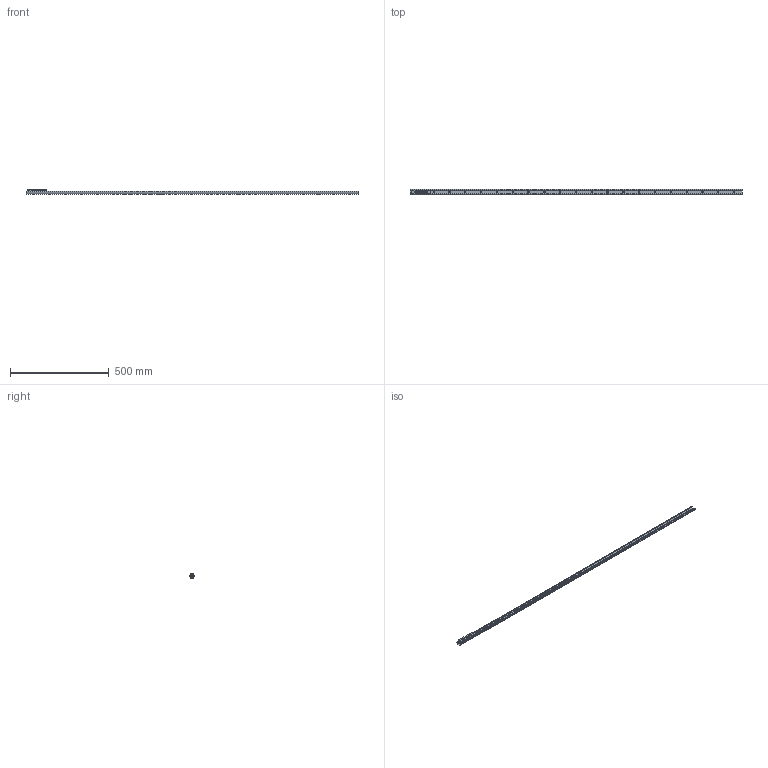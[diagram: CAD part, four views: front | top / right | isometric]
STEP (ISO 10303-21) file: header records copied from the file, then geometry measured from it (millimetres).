
FILE_DESCRIPTION( ( 'STEP AP214' ), '1' );
FILE_NAME( 'p:/temp/worker_22/temp/exporttempdir_3544_319_Iwa5a/format_1/TEN26-1680-CEN26-92.stp', '2020-05-08T18:51:19', ( 'License CC BY-ND 4.0' ), ( 'CADENAS' ), ' ', 'PARTsolutions', ' ' );
FILE_SCHEMA( ( 'AUTOMOTIVE_DESIGN { 1 0 10303 214 1 1 1 1 }' ) );
Length unit declared in the file: millimetre
Products named in the file (6): TEN26-1680-CEN26-92; _TEN 26-1680; _CEN26-92_1; _RLN26(11.2_M5); _RLA26(11.2_M5); _LAN-26
Assembly tree (8 placements, depth 2):
  TEN26-1680-CEN26-92
    _TEN 26-1680
    _CEN26-92_1
    _RLN26(11.2_M5)  x2
    _RLA26(11.2_M5)
    _LAN-26  x3
Bounding box: 1680 x 26 x 22 mm (x, y, z)
Volume: 186946.6 mm3; surface area: 157686.1 mm2
Topology: 8 solids, 8 shells, 254 faces, 564 edges, 353 vertices
Faces by surface type: plane 131, cylinder 90, cone 24, bspline 9
Full cylindrical faces by diameter (mm): 2.5 x2, 4.134 x5, 4.5 x3, 5 x6, 6.5 x21, 9.3 x3, 11.2 x6, 11.6 x6, 15.7 x6, 16.7 x6
Entity records: 6140 total; most frequent: CARTESIAN_POINT 890, DIRECTION 838, ORIENTED_EDGE 618, AXIS2_PLACEMENT_3D 355, EDGE_LOOP 316, EDGE_CURVE 309, VERTEX_POINT 239, FACE_OUTER_BOUND 226
